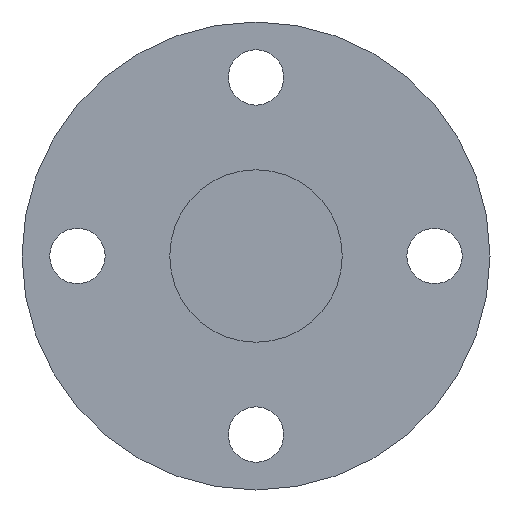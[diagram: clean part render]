
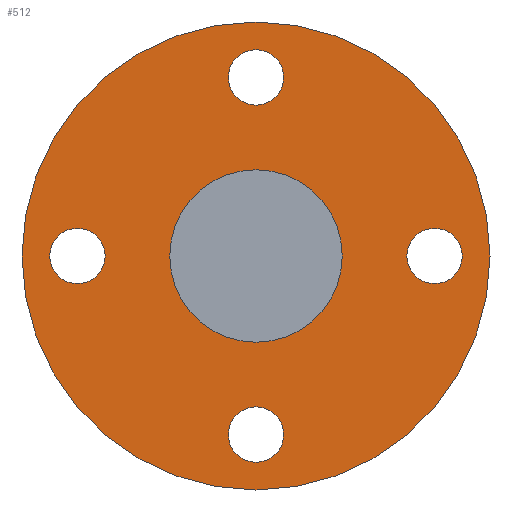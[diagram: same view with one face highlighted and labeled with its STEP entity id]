
A CAD part, left-side view. The second image highlights one B-rep face of the part: STEP entity #512.
In plain terms, the highlighted planar face has unit normal (-1, 0, 0).
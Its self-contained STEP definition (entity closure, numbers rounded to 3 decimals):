
#401=CARTESIAN_POINT('',(120.0,29.,-4.5));
#402=VERTEX_POINT('',#401);
#403=CARTESIAN_POINT('',(120.0,29.,0.));
#404=DIRECTION('',(1.0,0.0,0.0));
#405=DIRECTION('',(0.0,0.0,-1.0));
#406=AXIS2_PLACEMENT_3D('',#403,#404,#405);
#407=CIRCLE('',#406,4.5);
#408=EDGE_CURVE('',#402,#402,#407,.T.);
#421=CARTESIAN_POINT('',(120.0,-4.5,-29.));
#422=VERTEX_POINT('',#421);
#423=CARTESIAN_POINT('',(120.0,0.,-29.));
#424=DIRECTION('',(1.0,0.0,0.0));
#425=DIRECTION('',(0.0,-1.0,0.0));
#426=AXIS2_PLACEMENT_3D('',#423,#424,#425);
#427=CIRCLE('',#426,4.5);
#428=EDGE_CURVE('',#422,#422,#427,.T.);
#441=CARTESIAN_POINT('',(120.0,-29.,4.5));
#442=VERTEX_POINT('',#441);
#443=CARTESIAN_POINT('',(120.0,-29.,0.));
#444=DIRECTION('',(1.0,0.0,0.0));
#445=DIRECTION('',(0.0,0.0,1.0));
#446=AXIS2_PLACEMENT_3D('',#443,#444,#445);
#447=CIRCLE('',#446,4.5);
#448=EDGE_CURVE('',#442,#442,#447,.T.);
#461=CARTESIAN_POINT('',(120.0,4.5,29.));
#462=VERTEX_POINT('',#461);
#463=CARTESIAN_POINT('',(120.0,0.0,29.));
#464=DIRECTION('',(1.0,0.0,0.0));
#465=DIRECTION('',(0.0,1.0,0.0));
#466=AXIS2_PLACEMENT_3D('',#463,#464,#465);
#467=CIRCLE('',#466,4.5);
#468=EDGE_CURVE('',#462,#462,#467,.T.);
#473=CARTESIAN_POINT('',(120.0,0.0,26.));
#474=DIRECTION('',(-1.0,0.0,0.0));
#475=DIRECTION('',(0.0,0.0,1.0));
#476=AXIS2_PLACEMENT_3D('',#473,#474,#475);
#477=PLANE('',#476);
#478=CARTESIAN_POINT('',(120.0,0.0,38.));
#479=VERTEX_POINT('',#478);
#480=CARTESIAN_POINT('',(120.0,0.0,0.0));
#481=DIRECTION('',(-1.0,0.0,0.0));
#482=DIRECTION('',(0.0,0.0,1.0));
#483=AXIS2_PLACEMENT_3D('',#480,#481,#482);
#484=CIRCLE('',#483,38.);
#485=EDGE_CURVE('',#479,#479,#484,.T.);
#486=ORIENTED_EDGE('',*,*,#485,.T.);
#487=EDGE_LOOP('',(#486));
#488=FACE_OUTER_BOUND('',#487,.T.);
#489=ORIENTED_EDGE('',*,*,#408,.T.);
#490=EDGE_LOOP('',(#489));
#491=FACE_BOUND('',#490,.T.);
#492=ORIENTED_EDGE('',*,*,#428,.T.);
#493=EDGE_LOOP('',(#492));
#494=FACE_BOUND('',#493,.T.);
#495=ORIENTED_EDGE('',*,*,#448,.T.);
#496=EDGE_LOOP('',(#495));
#497=FACE_BOUND('',#496,.T.);
#498=ORIENTED_EDGE('',*,*,#468,.T.);
#499=EDGE_LOOP('',(#498));
#500=FACE_BOUND('',#499,.T.);
#501=CARTESIAN_POINT('',(120.0,0.0,14.));
#502=VERTEX_POINT('',#501);
#503=CARTESIAN_POINT('',(120.0,0.0,0.0));
#504=DIRECTION('',(-1.0,0.0,0.0));
#505=DIRECTION('',(0.0,0.0,1.0));
#506=AXIS2_PLACEMENT_3D('',#503,#504,#505);
#507=CIRCLE('',#506,14.);
#508=EDGE_CURVE('',#502,#502,#507,.T.);
#509=ORIENTED_EDGE('',*,*,#508,.F.);
#510=EDGE_LOOP('',(#509));
#511=FACE_BOUND('',#510,.T.);
#512=ADVANCED_FACE('',(#488,#491,#494,#497,#500,#511),#477,.T.);
